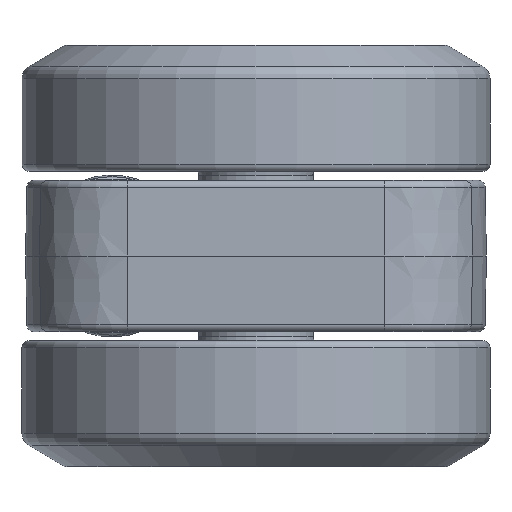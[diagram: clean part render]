
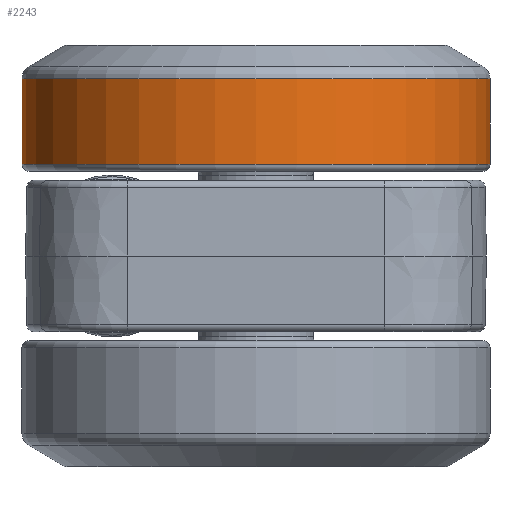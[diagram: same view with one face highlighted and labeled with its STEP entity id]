
A CAD part, front view. The second image highlights one B-rep face of the part: STEP entity #2243.
In plain terms, the highlighted cylindrical face has radius 32.5 mm (diameter 65 mm), a partial arc.
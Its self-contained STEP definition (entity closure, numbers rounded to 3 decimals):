
#183 = CYLINDRICAL_SURFACE ( 'NONE', #8110, 32.5 ) ;
#289 = VECTOR ( 'NONE', #13138, 1000. ) ;
#1470 = CARTESIAN_POINT ( 'NONE',  ( -11.058, 0., 32.5 ) ) ;
#2243 = ADVANCED_FACE ( 'NONE', ( #14684 ), #183, .T. ) ;
#2477 = CARTESIAN_POINT ( 'NONE',  ( -4., 0., 0. ) ) ;
#3576 = EDGE_CURVE ( 'NONE', #16957, #22917, #11654, .T. ) ;
#5052 = VERTEX_POINT ( 'NONE', #9423 ) ;
#6237 = CARTESIAN_POINT ( 'NONE',  ( -11.058, 0., -32.5 ) ) ;
#6425 = AXIS2_PLACEMENT_3D ( 'NONE', #2477, #12991, #16750 ) ;
#6513 = CARTESIAN_POINT ( 'NONE',  ( -15.864, 0., 0. ) ) ;
#7999 = LINE ( 'NONE', #6237, #289 ) ;
#8052 = DIRECTION ( 'NONE',  ( -1., 0., 0. ) ) ;
#8110 = AXIS2_PLACEMENT_3D ( 'NONE', #21567, #9290, #9179 ) ;
#9174 = VECTOR ( 'NONE', #19212, 1000. ) ;
#9179 = DIRECTION ( 'NONE',  ( 0., 0., 1. ) ) ;
#9290 = DIRECTION ( 'NONE',  ( -1., 0., 0. ) ) ;
#9423 = CARTESIAN_POINT ( 'NONE',  ( -4., 0., 32.5 ) ) ;
#9663 = ORIENTED_EDGE ( 'NONE', *, *, #19695, .T. ) ;
#11654 = CIRCLE ( 'NONE', #15795, 32.5 ) ;
#11867 = ORIENTED_EDGE ( 'NONE', *, *, #3576, .F. ) ;
#11879 = DIRECTION ( 'NONE',  ( 0., 0., 1. ) ) ;
#12991 = DIRECTION ( 'NONE',  ( -1., 0., 0. ) ) ;
#13080 = VERTEX_POINT ( 'NONE', #14972 ) ;
#13138 = DIRECTION ( 'NONE',  ( -1., 0., 0. ) ) ;
#13996 = CARTESIAN_POINT ( 'NONE',  ( -15.864, 0., -32.5 ) ) ;
#14684 = FACE_OUTER_BOUND ( 'NONE', #18346, .T. ) ;
#14689 = EDGE_CURVE ( 'NONE', #13080, #16957, #7999, .T. ) ;
#14972 = CARTESIAN_POINT ( 'NONE',  ( -4., 0., -32.5 ) ) ;
#15264 = CARTESIAN_POINT ( 'NONE',  ( -15.864, 0., 32.5 ) ) ;
#15795 = AXIS2_PLACEMENT_3D ( 'NONE', #6513, #8052, #11879 ) ;
#16527 = CIRCLE ( 'NONE', #6425, 32.5 ) ;
#16750 = DIRECTION ( 'NONE',  ( 0., 0., 1. ) ) ;
#16957 = VERTEX_POINT ( 'NONE', #13996 ) ;
#16988 = ORIENTED_EDGE ( 'NONE', *, *, #14689, .F. ) ;
#17879 = ORIENTED_EDGE ( 'NONE', *, *, #22873, .T. ) ;
#18346 = EDGE_LOOP ( 'NONE', ( #16988, #9663, #17879, #11867 ) ) ;
#18748 = LINE ( 'NONE', #1470, #9174 ) ;
#19212 = DIRECTION ( 'NONE',  ( -1., 0., 0. ) ) ;
#19695 = EDGE_CURVE ( 'NONE', #13080, #5052, #16527, .T. ) ;
#21567 = CARTESIAN_POINT ( 'NONE',  ( -11.058, 0., 0. ) ) ;
#22873 = EDGE_CURVE ( 'NONE', #5052, #22917, #18748, .T. ) ;
#22917 = VERTEX_POINT ( 'NONE', #15264 ) ;
